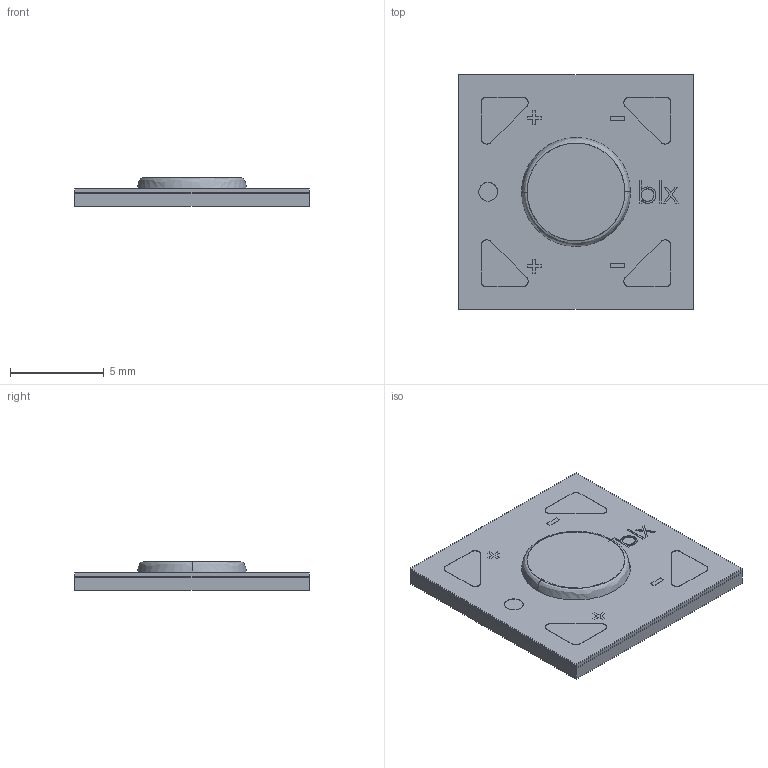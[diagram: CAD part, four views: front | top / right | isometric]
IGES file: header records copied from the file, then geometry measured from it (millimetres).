
Start section: SolidWorks IGES file using analytic representation for surfaces
Global section: file name: C:\Users\jiaqichen\Desktop\V Series HD\V4\CAD Files\V-4 HD Single Array.IGS; native system: SolidWorks 2018; preprocessor: SolidWorks 2018; author: jiaqichen; date: 180212.150437; units: millimetre
Bounding box: 12.5 x 12.5 x 1.52 mm (x, y, z)
Surface area: 641.5 mm2 (no closed solid volume)
Topology: 0 solids, 0 shells, 97 faces, 1359 edges, 1359 vertices
Faces by surface type: bspline 81, revolution 16
